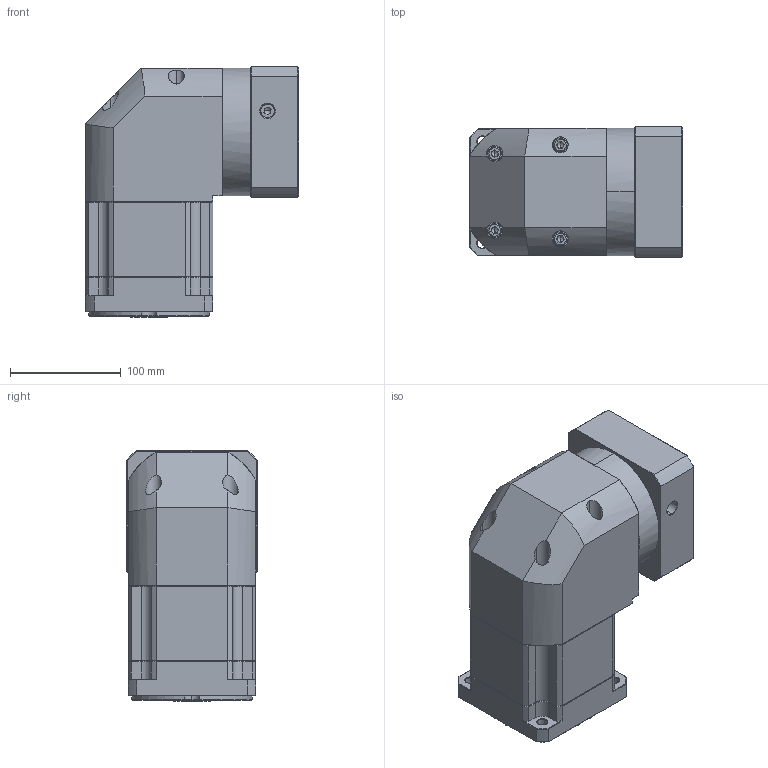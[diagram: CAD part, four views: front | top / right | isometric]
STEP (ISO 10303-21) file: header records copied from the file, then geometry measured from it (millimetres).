
FILE_DESCRIPTION (( 'STEP AP214' ), '1' );
FILE_NAME ('ZBR115A-K25-L2-P2-22-110-130-M8.step', '2023-08-26T12:44:05', ( '' ), ( '' ), 'SwSTEP 2.0', 'SolidWorks 2016', '' );
FILE_SCHEMA (( 'AUTOMOTIVE_DESIGN' ));
Length unit declared in the file: millimetre
Products named in the file (1): ZBR115A-K25-L2-P2-22-110-130-M8
Bounding box: 192.4 x 118 x 226.5 mm (x, y, z)
Volume: 3220818 mm3; surface area: 256791.2 mm2
Topology: 6 solids, 6 shells, 2325 faces, 6080 edges, 3859 vertices
Faces by surface type: plane 1132, bspline 416, cylinder 406, cone 363, torus 8
Entity records: 122598 total; most frequent: CARTESIAN_POINT 43270, ORIENTED_EDGE 12104, DIRECTION 9578, EDGE_CURVE 6052, LINE 3938, VECTOR 3938, VERTEX_POINT 3859, AXIS2_PLACEMENT_3D 2820
